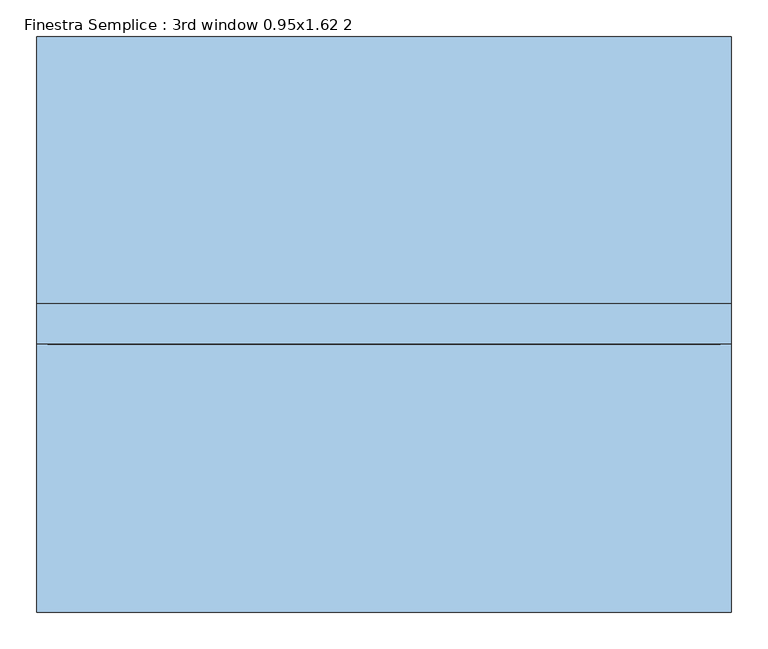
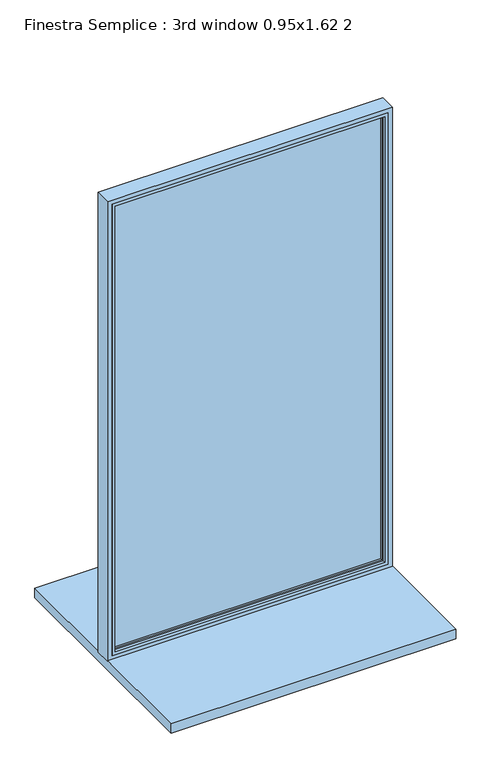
"""IFC4 building model written with IfcOpenShell, lengths in millimetres: window geometry, Finestra Semplice : 3rd window 0.95x1.62 2."""

import ifcopenshell
import ifcopenshell.guid

model = None  # the IFC model being written
_history = None  # IfcOwnerHistory: only IFC2X3 demands one
_inside = {}  # id of a spatial element -> (the spatial element, [elements in it])
_under = {}  # id of a project, library or spatial element -> (it, [spatial elements below it])
_declared = {}  # id of a project -> (the project, [libraries it declares])
_typed = {}  # id of a type object -> (the type object, [elements of that type])
_made_of = {}  # id of a material, layer set ... -> (it, [elements and type objects made of it])


def new_model(schema):
    """Start an empty IFC model of exactly this schema.

    Asked for "IFC4X3", IfcOpenShell would pick the latest addendum, in which some entities
    have other attributes; the version numbers below select the first issue.
    IFC2X3 requires an IfcOwnerHistory on every rooted entity: one is made here for all.
    """
    global model, _history
    if schema == "IFC4X3":
        model = ifcopenshell.file(schema_version=(4, 3, 0, 0))
    else:
        model = ifcopenshell.file(schema=schema)
    _inside.clear()
    _under.clear()
    _declared.clear()
    _typed.clear()
    _made_of.clear()
    _history = None
    if model.schema == "IFC2X3":
        org = make("IfcOrganization", Name="unknown")
        user = make(
            "IfcPersonAndOrganization",
            ThePerson=make("IfcPerson", FamilyName="unknown"),
            TheOrganization=org,
        )
        app = make(
            "IfcApplication",
            ApplicationDeveloper=org,
            Version="unknown",
            ApplicationFullName="unknown",
            ApplicationIdentifier="unknown",
        )
        _history = make(
            "IfcOwnerHistory",
            OwningUser=user,
            OwningApplication=app,
            ChangeAction="ADDED",
            CreationDate=0,
        )
    return model


def make(cls, **values):
    """One entity of the class cls with the attributes given. An attribute that is None is left unset."""
    return model.create_entity(
        cls, **{name: value for name, value in values.items() if value is not None}
    )


def rooted(cls, **values):
    """An entity with a GlobalId (a new one), such as an element, a storey or a relation."""
    return make(cls, GlobalId=ifcopenshell.guid.new(), OwnerHistory=_history, **values)


def si_unit(unit_type, name, prefix=None):
    """IfcSIUnit, for example si_unit("LENGTHUNIT", "METRE", prefix="MILLI")."""
    return make("IfcSIUnit", UnitType=unit_type, Prefix=prefix, Name=name)


def assignment(units):
    """IfcUnitAssignment: the units of a project."""
    return None if units is None else make("IfcUnitAssignment", Units=units)


def point(xyz):
    """IfcCartesianPoint."""
    return None if xyz is None else make("IfcCartesianPoint", Coordinates=xyz)


def direction(xyz):
    """IfcDirection."""
    return None if xyz is None else make("IfcDirection", DirectionRatios=xyz)


def frame(location, z_axis=None, x_axis=None):
    """IfcAxis2Placement3D, a coordinate frame: its origin and axes. An axis left out is left unset."""
    return make(
        "IfcAxis2Placement3D",
        Location=point(location),
        Axis=direction(z_axis),
        RefDirection=direction(x_axis),
    )


def origin():
    """The frame at (0, 0, 0) with its axes left unset."""
    return frame((0.0, 0.0, 0.0))


def place(relative_to, where):
    """IfcLocalPlacement: puts the frame where relative to a parent placement (None: the world)."""
    return make(
        "IfcLocalPlacement", PlacementRelTo=relative_to, RelativePlacement=where
    )


def context(
    kind, dimensions, precision=None, world=None, true_north=None, identifier=None
):
    """IfcGeometricRepresentationContext, for example the 3D "Model" context."""
    return make(
        "IfcGeometricRepresentationContext",
        ContextIdentifier=identifier,
        ContextType=kind,
        CoordinateSpaceDimension=dimensions,
        Precision=precision,
        WorldCoordinateSystem=world,
        TrueNorth=true_north,
    )


def project(units=None, contexts=None):
    """IfcProject with its units and contexts."""
    return rooted(
        "IfcProject",
        Name="project",
        RepresentationContexts=contexts,
        UnitsInContext=assignment(units),
    )


def spatial(cls, under=None, at=None, **own):
    """A site, building, storey or space (cls), placed at a placement, below another one or the project."""
    s = rooted(cls, ObjectPlacement=at, **own)
    if under is not None:
        _under.setdefault(under.id(), (under, []))[1].append(s)
    return s


def polyline(points):
    """IfcPolyline through the points."""
    return make("IfcPolyline", Points=[point(p) for p in points])


def ellipse_curve(where, semi_axis1, semi_axis2):
    """IfcEllipse in the frame where."""
    return make(
        "IfcEllipse", Position=where, SemiAxis1=semi_axis1, SemiAxis2=semi_axis2
    )


def outline(outer, holes=None, kind="AREA"):
    """IfcArbitraryClosedProfileDef: a profile drawn as a closed curve; with holes, ...WithVoids."""
    if holes is None:
        return make("IfcArbitraryClosedProfileDef", ProfileType=kind, OuterCurve=outer)
    return make(
        "IfcArbitraryProfileDefWithVoids",
        ProfileType=kind,
        OuterCurve=outer,
        InnerCurves=holes,
    )


def extrude(swept, where, along, depth):
    """IfcExtrudedAreaSolid: the profile swept, set in the frame where, extruded along a direction by depth."""
    return make(
        "IfcExtrudedAreaSolid",
        SweptArea=swept,
        Position=where,
        ExtrudedDirection=direction(along),
        Depth=depth,
    )


def faces_of(points, faces, orient=None, outer=None):
    """IfcFace entities. A face is a list of loops; a loop is a list of indices into points, from 0.

    orient and outer hold one flag for each loop. By default every Orientation is true, the
    first loop of a face is its IfcFaceOuterBound and the others are IfcFaceBound.
    """
    made = []
    for i, loops in enumerate(faces):
        bounds = []
        for j, loop in enumerate(loops):
            is_outer = j == 0 if outer is None else outer[i][j]
            bounds.append(
                make(
                    "IfcFaceOuterBound" if is_outer else "IfcFaceBound",
                    Bound=make("IfcPolyLoop", Polygon=[points[k] for k in loop]),
                    Orientation=True if orient is None else orient[i][j],
                )
            )
        made.append(make("IfcFace", Bounds=bounds))
    return made


def faceted_brep(points, faces, orient=None, outer=None, voids=None):
    """IfcFacetedBrep: a solid bounded by flat faces; with voids (closed shells), ...WithVoids."""
    shared = [point(p) for p in points]
    hull = make("IfcClosedShell", CfsFaces=faces_of(shared, faces, orient, outer))
    if voids is None:
        return make("IfcFacetedBrep", Outer=hull)
    return make(
        "IfcFacetedBrepWithVoids",
        Outer=hull,
        Voids=[
            make(cls, CfsFaces=faces_of(shared, fs, o, b)) for cls, fs, o, b in voids
        ],
    )


def shape(context_of_items, identifier, shape_type, items):
    """IfcShapeRepresentation: the items that make up one representation, for example the "Body"."""
    return make(
        "IfcShapeRepresentation",
        ContextOfItems=context_of_items,
        RepresentationIdentifier=identifier,
        RepresentationType=shape_type,
        Items=items,
    )


def source(mapping_origin, context_of_items, identifier, shape_type, items):
    """IfcRepresentationMap: a shape defined once, which mapped items show again and again."""
    return make(
        "IfcRepresentationMap",
        MappingOrigin=mapping_origin,
        MappedRepresentation=shape(context_of_items, identifier, shape_type, items),
    )


def transform(
    local_origin,
    x_axis=None,
    y_axis=None,
    z_axis=None,
    scale=None,
    scale2=None,
    scale3=None,
    uniform=True,
):
    """IfcCartesianTransformationOperator3D, or its non-uniform kind. x_axis, y_axis, z_axis: its Axis1, 2, 3."""
    if uniform:
        return make(
            "IfcCartesianTransformationOperator3D",
            Axis1=direction(x_axis),
            Axis2=direction(y_axis),
            LocalOrigin=point(local_origin),
            Scale=scale,
            Axis3=direction(z_axis),
        )
    return make(
        "IfcCartesianTransformationOperator3DnonUniform",
        Axis1=direction(x_axis),
        Axis2=direction(y_axis),
        LocalOrigin=point(local_origin),
        Scale=scale,
        Axis3=direction(z_axis),
        Scale2=scale2,
        Scale3=scale3,
    )


def mapped(mapping_source, mapping_target):
    """IfcMappedItem: shows the shape of a source again, moved by a transform."""
    return make(
        "IfcMappedItem", MappingSource=mapping_source, MappingTarget=mapping_target
    )


def made_of(thing, what):
    """Note that an element or type object is made of a material, layer set ...; save() writes the relation."""
    if what is not None:
        _made_of.setdefault(what.id(), (what, []))[1].append(thing)
    return thing


def element(
    cls,
    number,
    at=None,
    inside=None,
    cuts=None,
    type_object=None,
    material=None,
    context=None,
    identifier="Body",
    shape_type=None,
    held_by="IfcProductDefinitionShape",
    body=None,
    shapes=None,
    **own,
):
    """One element of the class cls, such as IfcWall. Its Tag is "e" and its number.

    at: its placement. inside: the storey or other place that contains it. cuts: it is an
    opening in that element (IfcRelVoidsElement). A single representation is given by context,
    identifier, shape_type and body (its items); several are given by shapes. held_by: the class
    of the entity that holds the representations. save() writes the other relations.
    """
    e = rooted(cls, Tag="e%d" % number, ObjectPlacement=at, **own)
    if body is not None:
        shapes = [shape(context, identifier, shape_type, body)]
    if shapes is not None:
        e.Representation = make(held_by, Representations=shapes)
    if inside is not None:
        _inside.setdefault(inside.id(), (inside, []))[1].append(e)
    if cuts is not None:
        rooted(
            "IfcRelVoidsElement", RelatingBuildingElement=cuts, RelatedOpeningElement=e
        )
    if type_object is not None:
        _typed.setdefault(type_object.id(), (type_object, []))[1].append(e)
    return made_of(e, material)


def aggregate(whole, parts):
    """IfcRelAggregates: a whole, such as a stair, and the parts it consists of."""
    return rooted("IfcRelAggregates", RelatingObject=whole, RelatedObjects=parts)


def save(model, path):
    """Write the relations noted so far, then the file.

    IfcRelAggregates (storeys below a building ...), IfcRelContainedInSpatialStructure (elements
    in a storey), IfcRelDefinesByType, IfcRelAssociatesMaterial and IfcRelDeclares: one each for
    every whole, place, type object, material and project.
    """
    for whole, parts in _under.values():
        aggregate(whole, parts)
    for where, things in _inside.values():
        rooted(
            "IfcRelContainedInSpatialStructure",
            RelatedElements=things,
            RelatingStructure=where,
        )
    for kind, things in _typed.values():
        rooted("IfcRelDefinesByType", RelatedObjects=things, RelatingType=kind)
    for what, things in _made_of.values():
        rooted("IfcRelAssociatesMaterial", RelatedObjects=things, RelatingMaterial=what)
    for by, libraries in _declared.values():
        rooted("IfcRelDeclares", RelatingContext=by, RelatedDefinitions=libraries)
    model.write(path)


def plane_surface(at):
    """IfcPlane: the flat surface through the origin of the frame at, square to its z axis."""
    return make("IfcPlane", Position=at)


def cylinder_surface(at, radius):
    """IfcCylindricalSurface: all points at the distance radius from the z axis of the frame at."""
    return make("IfcCylindricalSurface", Position=at, Radius=radius)


def advanced_brep(points, edges, surfaces, faces):
    """IfcAdvancedBrep: a solid bounded by faces that lie on surfaces and meet in shared edges.

    An edge is (start, end): straight between two places in points (the first is 0);
    or (start, end, curve); or (start, end, curve, False) where it runs against its curve.
    A face is (place in surfaces, loops), or (place, loops, False) where it looks against
    its surface's normal. A loop lists edges by number (the first is 1), with a minus sign
    where the edge is run from its end to its start. The first loop is the outer one.
    """
    corners = [point(p) for p in points]
    vertices = [make("IfcVertexPoint", VertexGeometry=c) for c in corners]
    made = []
    for start, end, *more in edges:
        made.append(
            make(
                "IfcEdgeCurve",
                EdgeStart=vertices[start],
                EdgeEnd=vertices[end],
                EdgeGeometry=more[0] if more else make("IfcPolyline", Points=[corners[start], corners[end]]),
                SameSense=more[1] if len(more) > 1 else True,
            )
        )
    hull = []
    for where, loops, *sense in faces:
        bounds = []
        for j, loop in enumerate(loops):
            ring = [make("IfcOrientedEdge", EdgeElement=made[abs(k) - 1], Orientation=k > 0) for k in loop]
            bounds.append(
                make(
                    "IfcFaceOuterBound" if j == 0 else "IfcFaceBound",
                    Bound=make("IfcEdgeLoop", EdgeList=ring),
                    Orientation=True,
                )
            )
        hull.append(make("IfcAdvancedFace", Bounds=bounds, FaceSurface=surfaces[where], SameSense=sense[0] if sense else True))
    return make("IfcAdvancedBrep", Outer=make("IfcClosedShell", CfsFaces=hull))


def finestra_semplice_3rd_window_0_95x1_62_2_18a6eb5c(model_context):
    return source(origin(), model_context, "Body", "SolidModel", [
        extrude(outline(polyline([(445.0, -3.0), (-445.0, -3.0), (-445.0, 9.8627388), (445.0, 9.8627388), (445.0, -3.0)])), frame((0.0, 0.0, 830.0), z_axis=(0.0, 0.0, 1.0), x_axis=(1.0, 0.0, 0.0)), (0.0, 0.0, 1.0), 1560.0),
        faceted_brep([(-460.0, -20.0, 2405.0), (-460.0, 20.0, 2405.0), (-460.0, 20.0, 815.0), (-460.0, -20.0, 815.0), (460.0, 20.0, 2405.0), (460.0, 20.0, 815.0), (-445.0, 20.0, 2390.0), (-445.0, 20.0, 830.0), (445.0, 20.0, 830.0), (445.0, 20.0, 2390.0), (460.0, -20.0, 815.0), (460.0, -20.0, 2405.0), (450.0, -20.0, 2395.0), (450.0, -20.0, 825.0), (-450.0, -20.0, 825.0), (-450.0, -20.0, 2395.0), (-450.0, -10.0, 2395.0), (-450.0, -10.0, 825.0), (450.0, -10.0, 825.0), (450.0, -10.0, 2395.0), (445.0, -10.0, 2390.0), (445.0, -10.0, 830.0), (-445.0, -10.0, 830.0), (-445.0, -10.0, 2390.0)], [[[0, 1, 2, 3]], [[4, 5, 2, 1], [6, 7, 8, 9]], [[3, 2, 5, 10]], [[0, 3, 10, 11], [12, 13, 14, 15]], [[16, 15, 14, 17]], [[17, 14, 13, 18]], [[16, 17, 18, 19], [20, 21, 22, 23]], [[6, 23, 22, 7]], [[7, 22, 21, 8]], [[10, 5, 4, 11]], [[18, 13, 12, 19]], [[8, 21, 20, 9]], [[11, 4, 1, 0]], [[19, 12, 15, 16]], [[9, 20, 23, 6]]]),
        advanced_brep(
        [(-475.0, 35.0, 2420.0), (-475.0, 35.0, 800.0), (-475.0, -20.0, 800.0), (-475.0, -20.0, 2420.0), (475.0, 35.0, 2420.0), (475.0, 35.0, 800.0), (-455.0, 35.0, 820.0), (455.0, 35.0, 820.0), (455.0, 35.0, 2400.0), (-455.0, 35.0, 2400.0), (475.0, -20.0, 800.0), (475.0, -20.0, 2420.0), (-460.0, -20.0, 2405.0), (460.0, -20.0, 2405.0), (460.0, -20.0, 815.0), (-460.0, -20.0, 815.0), (-460.0, 20.0, 2405.0), (-460.0, 20.0, 815.0), (460.0, 20.0, 815.0), (460.0, 20.0, 2405.0), (-450.0, 20.0, 2395.0), (450.0, 20.0, 2395.0), (450.0, 20.0, 825.0), (-450.0, 20.0, 825.0), (-450.0, 30.0, 2395.0), (-450.0, 30.0, 825.0), (450.0, 30.0, 825.0), (450.0, 30.0, 2395.0)],
        [
            (0, 1),
            (1, 2),
            (2, 3),
            (3, 0),
            (0, 4),
            (4, 5),
            (5, 1),
            (6, 7),
            (7, 8),
            (8, 9),
            (9, 6),
            (5, 10),
            (10, 2),
            (10, 11),
            (11, 3),
            (12, 13),
            (13, 14),
            (14, 15),
            (15, 12),
            (16, 12),
            (15, 17),
            (17, 16),
            (14, 18),
            (18, 17),
            (18, 19),
            (19, 16),
            (20, 21),
            (21, 22),
            (22, 23),
            (23, 20),
            (24, 20),
            (23, 25),
            (25, 24),
            (22, 26),
            (26, 25),
            (9, 24, ellipse_curve(frame((-455.0, 30.0, 2400.0), z_axis=(-0.7071067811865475, 0.0, -0.7071067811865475), x_axis=(-0.7071067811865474, 0.0, 0.7071067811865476)), 7.0710678, 5.0)),
            (25, 6, ellipse_curve(frame((-455.0, 30.0, 820.0), z_axis=(-0.7071067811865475, 0.0, 0.7071067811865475), x_axis=(0.7071067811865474, 0.0, 0.7071067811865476)), 7.0710678, 5.0)),
            (26, 7, ellipse_curve(frame((455.0, 30.0, 820.0), z_axis=(-0.7071067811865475, 0.0, -0.7071067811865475), x_axis=(-0.7071067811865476, 0.0, 0.7071067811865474)), 7.0710678, 5.0)),
            (4, 11),
            (13, 19),
            (21, 27),
            (27, 26),
            (27, 8, ellipse_curve(frame((455.0, 30.0, 2400.0), z_axis=(0.7071067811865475, 0.0, -0.7071067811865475), x_axis=(-0.7071067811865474, 0.0, -0.7071067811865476)), 7.0710678, 5.0)),
            (24, 27),
        ],
        [
            plane_surface(frame((-475.0, 0.0, 2420.0), z_axis=(-1.0, 0.0, 0.0), x_axis=(0.0, 0.0, -1.0))),
            plane_surface(frame((455.0, 35.0, 2400.0), z_axis=(0.0, 1.0, 0.0), x_axis=(-1.0, 0.0, 0.0))),
            plane_surface(frame((-475.0, 0.0, 800.0), z_axis=(0.0, 0.0, -1.0), x_axis=(1.0, 0.0, 0.0))),
            plane_surface(frame((475.0, -20.0, 2420.0), z_axis=(0.0, -1.0, 0.0), x_axis=(-1.0, 0.0, 0.0))),
            plane_surface(frame((-460.0, -20.0, 2405.0), z_axis=(1.0, 0.0, 0.0), x_axis=(0.0, 0.0, -1.0))),
            plane_surface(frame((-460.0, -20.0, 815.0), z_axis=(0.0, 0.0, 1.0), x_axis=(1.0, 0.0, 0.0))),
            plane_surface(frame((460.0, 20.0, 2405.0), z_axis=(0.0, -1.0, 0.0), x_axis=(-1.0, 0.0, 0.0))),
            plane_surface(frame((-450.0, 20.0, 2395.0), z_axis=(1.0, 0.0, 0.0), x_axis=(0.0, 0.0, -1.0))),
            plane_surface(frame((-450.0, 20.0, 825.0), z_axis=(0.0, 0.0, 1.0), x_axis=(1.0, 0.0, 0.0))),
            cylinder_surface(frame((-455.0, 30.0, 2420.0), z_axis=(0.0, 0.0, 1.0), x_axis=(1.0, 0.0, 0.0)), 5.0),
            cylinder_surface(frame((-475.0, 30.0, 820.0), z_axis=(-1.0, 0.0, 0.0), x_axis=(0.0, 0.0, 1.0)), 5.0),
            plane_surface(frame((475.0, 0.0, 800.0), z_axis=(1.0, 0.0, 0.0), x_axis=(0.0, 0.0, 1.0))),
            plane_surface(frame((460.0, -20.0, 815.0), z_axis=(-1.0, 0.0, 0.0), x_axis=(0.0, 0.0, 1.0))),
            plane_surface(frame((450.0, 20.0, 825.0), z_axis=(-1.0, 0.0, 0.0), x_axis=(0.0, 0.0, 1.0))),
            cylinder_surface(frame((455.0, 30.0, 800.0), z_axis=(0.0, 0.0, -1.0), x_axis=(-1.0, 0.0, 0.0)), 5.0),
            plane_surface(frame((475.0, 0.0, 2420.0), z_axis=(0.0, 0.0, 1.0), x_axis=(-1.0, 0.0, 0.0))),
            plane_surface(frame((460.0, -20.0, 2405.0), z_axis=(0.0, 0.0, -1.0), x_axis=(-1.0, 0.0, 0.0))),
            plane_surface(frame((450.0, 20.0, 2395.0), z_axis=(0.0, 0.0, -1.0), x_axis=(-1.0, 0.0, 0.0))),
            cylinder_surface(frame((475.0, 30.0, 2400.0), z_axis=(1.0, 0.0, 0.0), x_axis=(0.0, 0.0, -1.0)), 5.0),
        ],
        [
            (0, [[1, 2, 3, 4]]),
            (1, [[5, 6, 7, -1], [8, 9, 10, 11]]),
            (2, [[-2, -7, 12, 13]]),
            (3, [[-13, 14, 15, -3], [16, 17, 18, 19]]),
            (4, [[20, -19, 21, 22]]),
            (5, [[-21, -18, 23, 24]]),
            (6, [[-24, 25, 26, -22], [27, 28, 29, 30]]),
            (7, [[31, -30, 32, 33]]),
            (8, [[-32, -29, 34, 35]]),
            (9, [[36, -33, 37, -11]]),
            (10, [[-37, -35, 38, -8]]),
            (11, [[-12, -6, 39, -14]]),
            (12, [[-23, -17, 40, -25]]),
            (13, [[-34, -28, 41, 42]]),
            (14, [[-38, -42, 43, -9]]),
            (15, [[-39, -5, -4, -15]]),
            (16, [[-40, -16, -20, -26]]),
            (17, [[-41, -27, -31, 44]]),
            (18, [[-43, -44, -36, -10]]),
        ],
    ),
        extrude(outline(polyline([(475.0, -386.4372612), (-475.0, -386.4372612), (-475.0, 400.1627389), (475.0, 400.1627389), (475.0, -386.4372612)])), frame((0.0, 0.0, 770.0), z_axis=(0.0, 0.0, 1.0), x_axis=(1.0, 0.0, 0.0)), (0.0, 0.0, 1.0), 33.0),
    ])


if __name__ == "__main__":
    model = new_model("IFC4")
    model_context = context("Model", 3, world=origin())
    ifc_project = project(units=[si_unit("LENGTHUNIT", "METRE", prefix="MILLI")], contexts=[model_context])
    site = spatial("IfcSite", under=ifc_project)
    building = spatial("IfcBuilding", under=site)
    placement = place(None, origin())
    finestra_semplice_3rd_window_0_95x1_62_2_shape = finestra_semplice_3rd_window_0_95x1_62_2_18a6eb5c(model_context)
    element("IfcWindow", 1, ObjectType="Finestra Semplice : 3rd window 0.95x1.62 2", at=placement, inside=building, context=model_context, shape_type="MappedRepresentation", body=[
        mapped(finestra_semplice_3rd_window_0_95x1_62_2_shape, transform((0.0, 0.0, 0.0), x_axis=(1.0, 0.0, 0.0), y_axis=(0.0, 1.0, 0.0), z_axis=(0.0, 0.0, 1.0))),
    ])
    save(model, "model.ifc")
